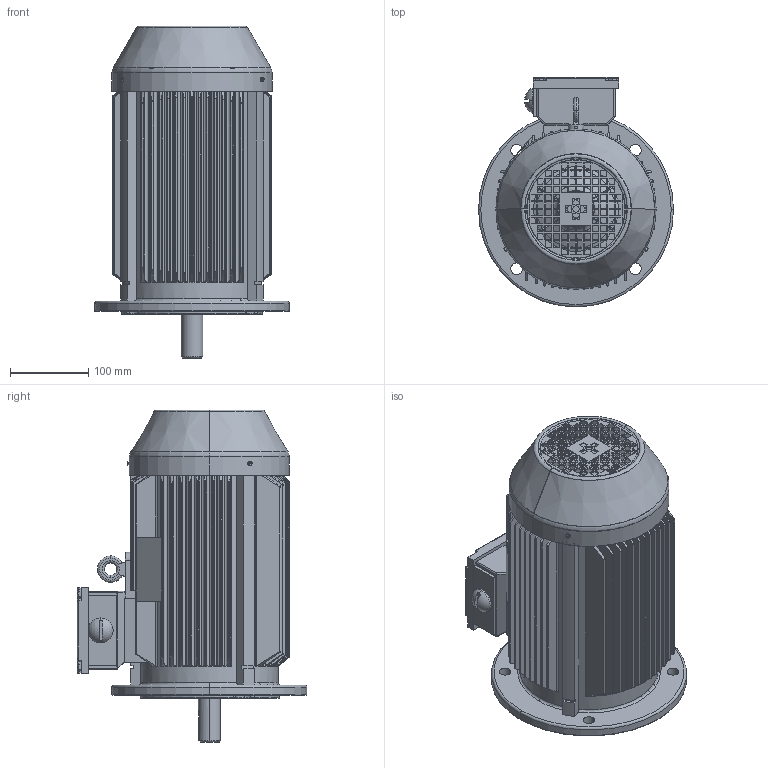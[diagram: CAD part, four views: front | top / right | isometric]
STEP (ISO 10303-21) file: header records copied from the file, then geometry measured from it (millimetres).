
FILE_DESCRIPTION (( 'STEP AP203' ), '1' );
FILE_NAME ('TE3-100L（GX）V1 .STEP', '2019-11-07T00:05:40', ( '微软用户' ), ( '微软中国' ), 'SwSTEP 2.0', 'SolidWorks 2012', '' );
FILE_SCHEMA (( 'CONFIG_CONTROL_DESIGN' ));
Length unit declared in the file: millimetre
Products named in the file (1): TE3-100L（GX）V1 
Bounding box: 250 x 294.5 x 425.49 mm (x, y, z)
Volume: 3730819.9 mm3; surface area: 1018916.9 mm2
Topology: 2 solids, 6 shells, 1306 faces, 3490 edges, 2267 vertices
Faces by surface type: plane 693, cylinder 373, cone 124, torus 104, sphere 6, bspline 6
Entity records: 44692 total; most frequent: CARTESIAN_POINT 12115, ORIENTED_EDGE 6964, DIRECTION 6283, EDGE_CURVE 3482, VERTEX_POINT 2267, VECTOR 2157, LINE 2157, AXIS2_PLACEMENT_3D 2063
